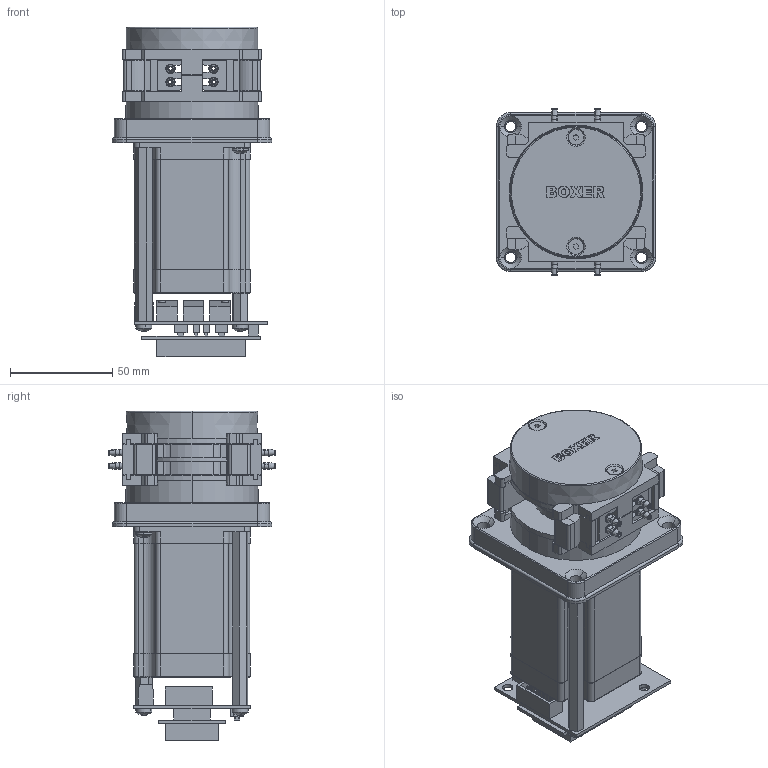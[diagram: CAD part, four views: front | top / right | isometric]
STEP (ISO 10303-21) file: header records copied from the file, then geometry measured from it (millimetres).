
FILE_DESCRIPTION (( 'STEP AP203' ), '1' );
FILE_NAME ('6341.105-1mm.STEP', '2018-10-30T22:14:09', ( '' ), ( '' ), 'SwSTEP 2.0', 'SolidWorks 2015', '' );
FILE_SCHEMA (( 'CONFIG_CONTROL_DESIGN' ));
Length unit declared in the file: millimetre
Products named in the file (1): 6341.105-1mm
Bounding box: 78 x 81.95 x 161.35 mm (x, y, z)
Surface area: 82252.6 mm2 (no closed solid volume)
Topology: 0 solids, 59 shells, 881 faces, 2868 edges, 1995 vertices
Faces by surface type: plane 491, cylinder 244, cone 74, torus 42, bspline 20, sphere 10
Entity records: 32677 total; most frequent: CARTESIAN_POINT 7249, DIRECTION 5442, ORIENTED_EDGE 4706, EDGE_CURVE 2868, VERTEX_POINT 1995, LINE 1854, VECTOR 1854, AXIS2_PLACEMENT_3D 1794
